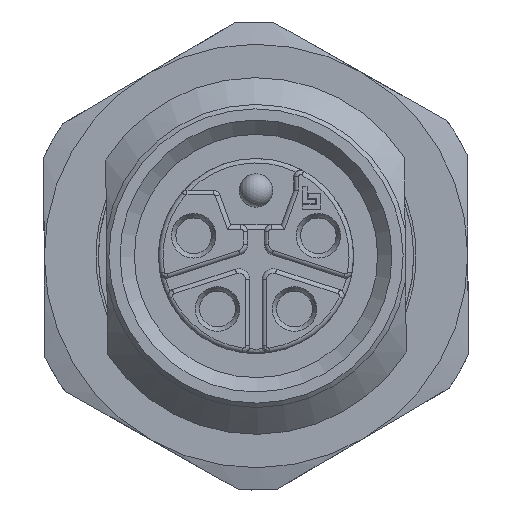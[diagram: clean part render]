
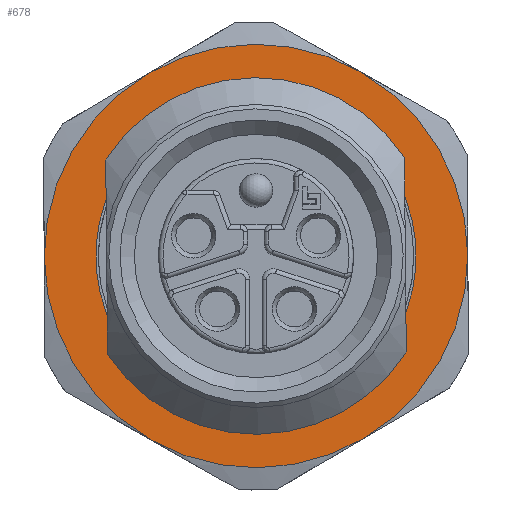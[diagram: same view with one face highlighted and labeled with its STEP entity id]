
A CAD part, left-side view. The second image highlights one B-rep face of the part: STEP entity #678.
In plain terms, the highlighted planar face has unit normal (-1, 0, 0).
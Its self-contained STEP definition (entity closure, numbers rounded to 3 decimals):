
#229=PLANE('',#5366);
#678=ADVANCED_FACE('',(#1007,#1008),#229,.T.);
#1007=FACE_BOUND('',#1209,.T.);
#1008=FACE_BOUND('',#1210,.T.);
#1209=EDGE_LOOP('',(#2706,#2707,#2708,#2709,#2710,#2711));
#1210=EDGE_LOOP('',(#2712,#2713,#2714,#2715,#2716,#2717,#2718,#2719));
#1413=LINE('',#7453,#1755);
#1414=LINE('',#7458,#1756);
#1420=LINE('',#7470,#1762);
#1421=LINE('',#7475,#1763);
#1755=VECTOR('',#5843,1.);
#1756=VECTOR('',#5844,1.);
#1762=VECTOR('',#5854,1.);
#1763=VECTOR('',#5855,1.);
#2706=ORIENTED_EDGE('',*,*,#4363,.T.);
#2707=ORIENTED_EDGE('',*,*,#4364,.T.);
#2708=ORIENTED_EDGE('',*,*,#4365,.T.);
#2709=ORIENTED_EDGE('',*,*,#4366,.T.);
#2710=ORIENTED_EDGE('',*,*,#4367,.T.);
#2711=ORIENTED_EDGE('',*,*,#4368,.T.);
#2712=ORIENTED_EDGE('',*,*,#4112,.F.);
#2713=ORIENTED_EDGE('',*,*,#4369,.T.);
#2714=ORIENTED_EDGE('',*,*,#4114,.F.);
#2715=ORIENTED_EDGE('',*,*,#4051,.F.);
#2716=ORIENTED_EDGE('',*,*,#4120,.F.);
#2717=ORIENTED_EDGE('',*,*,#4370,.T.);
#2718=ORIENTED_EDGE('',*,*,#4122,.F.);
#2719=ORIENTED_EDGE('',*,*,#4047,.F.);
#3557=VERTEX_POINT('',#7265);
#3558=VERTEX_POINT('',#7267);
#3561=VERTEX_POINT('',#7274);
#3562=VERTEX_POINT('',#7276);
#3604=VERTEX_POINT('',#7451);
#3606=VERTEX_POINT('',#7459);
#3608=VERTEX_POINT('',#7468);
#3610=VERTEX_POINT('',#7476);
#3764=VERTEX_POINT('',#8295);
#3765=VERTEX_POINT('',#8296);
#3766=VERTEX_POINT('',#8298);
#3767=VERTEX_POINT('',#8300);
#3768=VERTEX_POINT('',#8302);
#3769=VERTEX_POINT('',#8304);
#4047=EDGE_CURVE('',#3557,#3558,#4780,.T.);
#4051=EDGE_CURVE('',#3561,#3562,#4782,.T.);
#4112=EDGE_CURVE('',#3604,#3557,#1413,.T.);
#4114=EDGE_CURVE('',#3562,#3606,#1414,.T.);
#4120=EDGE_CURVE('',#3608,#3561,#1420,.T.);
#4122=EDGE_CURVE('',#3558,#3610,#1421,.T.);
#4363=EDGE_CURVE('',#3764,#3765,#4913,.T.);
#4364=EDGE_CURVE('',#3765,#3766,#4914,.T.);
#4365=EDGE_CURVE('',#3766,#3767,#4915,.T.);
#4366=EDGE_CURVE('',#3767,#3768,#4916,.T.);
#4367=EDGE_CURVE('',#3768,#3769,#4917,.T.);
#4368=EDGE_CURVE('',#3769,#3764,#4918,.T.);
#4369=EDGE_CURVE('',#3604,#3606,#4919,.T.);
#4370=EDGE_CURVE('',#3608,#3610,#4920,.T.);
#4780=CIRCLE('',#5099,8.);
#4782=CIRCLE('',#5102,8.);
#4913=CIRCLE('',#5358,9.5);
#4914=CIRCLE('',#5359,9.5);
#4915=CIRCLE('',#5360,9.5);
#4916=CIRCLE('',#5361,9.5);
#4917=CIRCLE('',#5362,9.5);
#4918=CIRCLE('',#5363,9.5);
#4919=CIRCLE('',#5364,7.188);
#4920=CIRCLE('',#5365,7.188);
#5099=AXIS2_PLACEMENT_3D('',#7266,#5714,#5715);
#5102=AXIS2_PLACEMENT_3D('',#7275,#5722,#5723);
#5358=AXIS2_PLACEMENT_3D('',#8294,#6383,#6384);
#5359=AXIS2_PLACEMENT_3D('',#8297,#6385,#6386);
#5360=AXIS2_PLACEMENT_3D('',#8299,#6387,#6388);
#5361=AXIS2_PLACEMENT_3D('',#8301,#6389,#6390);
#5362=AXIS2_PLACEMENT_3D('',#8303,#6391,#6392);
#5363=AXIS2_PLACEMENT_3D('',#8305,#6393,#6394);
#5364=AXIS2_PLACEMENT_3D('',#8306,#6395,#6396);
#5365=AXIS2_PLACEMENT_3D('',#8307,#6397,#6398);
#5366=AXIS2_PLACEMENT_3D('',#8308,#6399,#6400);
#5714=DIRECTION('',(-1.,0.,0.));
#5715=DIRECTION('',(0.,0.,1.));
#5722=DIRECTION('',(-1.,0.,0.));
#5723=DIRECTION('',(0.,0.,1.));
#5843=DIRECTION('',(0.,-0.01,-1.));
#5844=DIRECTION('',(0.,-0.01,-1.));
#5854=DIRECTION('',(0.,0.01,1.));
#5855=DIRECTION('',(0.,0.01,1.));
#6383=DIRECTION('',(-1.,0.,0.));
#6384=DIRECTION('',(0.,0.494,-0.869));
#6385=DIRECTION('',(-1.,0.,0.));
#6386=DIRECTION('',(0.,0.494,-0.869));
#6387=DIRECTION('',(-1.,0.,0.));
#6388=DIRECTION('',(0.,0.494,-0.869));
#6389=DIRECTION('',(-1.,0.,0.));
#6390=DIRECTION('',(0.,0.494,-0.869));
#6391=DIRECTION('',(-1.,0.,0.));
#6392=DIRECTION('',(0.,0.494,-0.869));
#6393=DIRECTION('',(-1.,0.,0.));
#6394=DIRECTION('',(0.,0.494,-0.869));
#6395=DIRECTION('',(1.,0.,0.));
#6396=DIRECTION('',(0.,-0.494,0.869));
#6397=DIRECTION('',(1.,0.,0.));
#6398=DIRECTION('',(0.,-0.494,0.869));
#6399=DIRECTION('',(-1.,0.,0.));
#6400=DIRECTION('',(0.,0.494,-0.869));
#7265=CARTESIAN_POINT('',(11.2,6.658,-4.436));
#7266=CARTESIAN_POINT('',(11.2,0.,0.));
#7267=CARTESIAN_POINT('',(11.2,-6.742,-4.307));
#7274=CARTESIAN_POINT('',(11.2,-6.658,4.436));
#7275=CARTESIAN_POINT('',(11.2,0.,0.));
#7276=CARTESIAN_POINT('',(11.2,6.742,4.307));
#7451=CARTESIAN_POINT('',(11.2,6.675,-2.668));
#7453=CARTESIAN_POINT('',(11.2,6.652,-5.064));
#7458=CARTESIAN_POINT('',(11.2,6.652,-5.064));
#7459=CARTESIAN_POINT('',(11.2,6.725,2.539));
#7468=CARTESIAN_POINT('',(11.2,-6.675,2.668));
#7470=CARTESIAN_POINT('',(11.2,-6.652,5.064));
#7475=CARTESIAN_POINT('',(11.2,-6.652,5.064));
#7476=CARTESIAN_POINT('',(11.2,-6.725,-2.539));
#8294=CARTESIAN_POINT('',(11.2,0.,0.));
#8295=CARTESIAN_POINT('',(11.2,4.807,8.194));
#8296=CARTESIAN_POINT('',(11.2,9.5,-0.066));
#8297=CARTESIAN_POINT('',(11.2,0.,0.));
#8298=CARTESIAN_POINT('',(11.2,4.692,-8.26));
#8299=CARTESIAN_POINT('',(11.2,0.,0.));
#8300=CARTESIAN_POINT('',(11.2,-4.807,-8.194));
#8301=CARTESIAN_POINT('',(11.2,0.,0.));
#8302=CARTESIAN_POINT('',(11.2,-9.5,0.066));
#8303=CARTESIAN_POINT('',(11.2,0.,0.));
#8304=CARTESIAN_POINT('',(11.2,-4.692,8.26));
#8305=CARTESIAN_POINT('',(11.2,0.,0.));
#8306=CARTESIAN_POINT('',(11.2,0.,0.));
#8307=CARTESIAN_POINT('',(11.2,0.,0.));
#8308=CARTESIAN_POINT('',(11.2,0.,0.));
